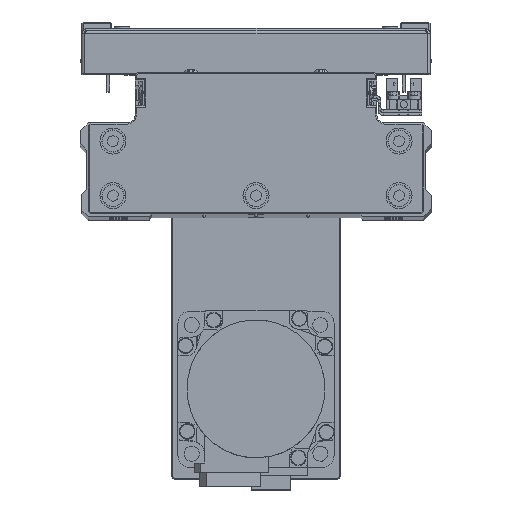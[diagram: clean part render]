
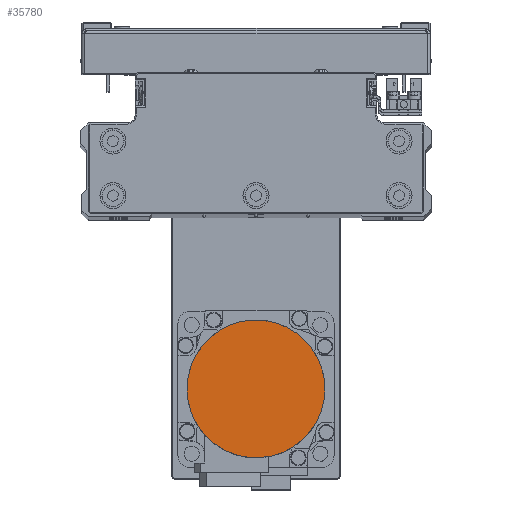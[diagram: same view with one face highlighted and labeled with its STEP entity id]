
A CAD part, top view. The second image highlights one B-rep face of the part: STEP entity #35780.
In plain terms, the highlighted planar face has unit normal (0, 0, 1) as drawn and (0, 0, -1) by its records, which use the part's own axes.
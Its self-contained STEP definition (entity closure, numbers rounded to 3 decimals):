
#2014 = CARTESIAN_POINT ( 'NONE',  ( -16.165, -21.07, -109.7 ) ) ;
#2220 = CARTESIAN_POINT ( 'NONE',  ( 11.744, 23.819, -109.7 ) ) ;
#2243 = CARTESIAN_POINT ( 'NONE',  ( 16.165, -21.07, -109.7 ) ) ;
#2432 = CARTESIAN_POINT ( 'NONE',  ( -19.965, 17.512, -109.7 ) ) ;
#2596 = FACE_OUTER_BOUND ( 'NONE', #3212, .T. ) ;
#3212 = EDGE_LOOP ( 'NONE', ( #40001, #31798 ) ) ;
#5336 = CARTESIAN_POINT ( 'NONE',  ( -21.07, -16.165, -109.7 ) ) ;
#5534 = CARTESIAN_POINT ( 'NONE',  ( 17.512, 19.965, -109.7 ) ) ;
#5562 = CARTESIAN_POINT ( 'NONE',  ( 8.539, -25.147, -109.7 ) ) ;
#5764 = CARTESIAN_POINT ( 'NONE',  ( -13.28, 22.998, -109.7 ) ) ;
#5787 = CARTESIAN_POINT ( 'NONE',  ( 26.5, 0., -109.7 ) ) ;
#8660 = EDGE_CURVE ( 'NONE', #22378, #13262, #17434, .T. ) ;
#8697 = CARTESIAN_POINT ( 'NONE',  ( -25.147, -8.539, -109.7 ) ) ;
#8881 = CARTESIAN_POINT ( 'NONE',  ( 22.998, 13.28, -109.7 ) ) ;
#8904 = CARTESIAN_POINT ( 'NONE',  ( 1.734, -26.5, -109.7 ) ) ;
#9105 = CARTESIAN_POINT ( 'NONE',  ( -6.871, 25.652, -109.7 ) ) ;
#9131 = CARTESIAN_POINT ( 'NONE',  ( 25.652, -6.871, -109.7 ) ) ;
#9341 = CARTESIAN_POINT ( 'NONE',  ( -26.5, 1.734, -109.7 ) ) ;
#12036 = CARTESIAN_POINT ( 'NONE',  ( -26.5, -1.734, -109.7 ) ) ;
#12242 = CARTESIAN_POINT ( 'NONE',  ( 25.652, 6.871, -109.7 ) ) ;
#12265 = CARTESIAN_POINT ( 'NONE',  ( -6.871, -25.652, -109.7 ) ) ;
#12448 = CARTESIAN_POINT ( 'NONE',  ( 1.734, 26.5, -109.7 ) ) ;
#12469 = CARTESIAN_POINT ( 'NONE',  ( 22.998, -13.28, -109.7 ) ) ;
#12677 = CARTESIAN_POINT ( 'NONE',  ( -25.147, 8.539, -109.7 ) ) ;
#12868 = DIRECTION ( 'NONE',  ( 1., 0., 0. ) ) ;
#13262 = VERTEX_POINT ( 'NONE', #14597 ) ;
#14597 = CARTESIAN_POINT ( 'NONE',  ( -26.5, 0., -109.7 ) ) ;
#14746 = B_SPLINE_CURVE_WITH_KNOTS ( 'NONE', 3,
 ( #42526, #12036, #25659, #39213, #8697, #22318, #35856, #5336, #18961, #32496, #2014, #15621, #29192, #42759, #12265, #25874, #39422, #8904, #22525, #36062, #5562, #19202, #32734, #2243, #15845, #29400, #42962, #12469, #26077, #39626, #9131, #22763, #36306, #5787 ),
 .UNSPECIFIED., .F., .F.,
 ( 4, 2, 2, 2, 2, 2, 2, 2, 2, 2, 2, 2, 2, 2, 2, 2, 4 ),
 ( 0., 0.063, 0.125, 0.188, 0.25, 0.312, 0.375, 0.437, 0.5, 0.562, 0.625, 0.687, 0.75, 0.813, 0.875, 0.938, 1. ),
 .UNSPECIFIED. ) ;
#15592 = CARTESIAN_POINT ( 'NONE',  ( 26.5, 0., -109.7 ) ) ;
#15621 = CARTESIAN_POINT ( 'NONE',  ( -13.28, -22.998, -109.7 ) ) ;
#15822 = CARTESIAN_POINT ( 'NONE',  ( 8.539, 25.147, -109.7 ) ) ;
#15845 = CARTESIAN_POINT ( 'NONE',  ( 17.512, -19.965, -109.7 ) ) ;
#16028 = CARTESIAN_POINT ( 'NONE',  ( -21.07, 16.165, -109.7 ) ) ;
#16205 = PLANE ( 'NONE',  #33123 ) ;
#17434 = B_SPLINE_CURVE_WITH_KNOTS ( 'NONE', 3,
 ( #15592, #29166, #42736, #12242, #25853, #39399, #8881, #22501, #36038, #5534, #19177, #32710, #2220, #15822, #29381, #42940, #12448, #26053, #39606, #9105, #22737, #36287, #5764, #19398, #32926, #2432, #16028, #29581, #43152, #12677, #26290, #39842, #9341, #22953 ),
 .UNSPECIFIED., .F., .F.,
 ( 4, 2, 2, 2, 2, 2, 2, 2, 2, 2, 2, 2, 2, 2, 2, 2, 4 ),
 ( 0., 0.062, 0.125, 0.187, 0.25, 0.312, 0.375, 0.437, 0.5, 0.562, 0.625, 0.687, 0.75, 0.813, 0.875, 0.938, 1. ),
 .UNSPECIFIED. ) ;
#18961 = CARTESIAN_POINT ( 'NONE',  ( -19.965, -17.512, -109.7 ) ) ;
#19177 = CARTESIAN_POINT ( 'NONE',  ( 16.165, 21.07, -109.7 ) ) ;
#19202 = CARTESIAN_POINT ( 'NONE',  ( 11.744, -23.819, -109.7 ) ) ;
#19398 = CARTESIAN_POINT ( 'NONE',  ( -16.165, 21.07, -109.7 ) ) ;
#22318 = CARTESIAN_POINT ( 'NONE',  ( -23.819, -11.744, -109.7 ) ) ;
#22378 = VERTEX_POINT ( 'NONE', #42030 ) ;
#22501 = CARTESIAN_POINT ( 'NONE',  ( 21.07, 16.165, -109.7 ) ) ;
#22525 = CARTESIAN_POINT ( 'NONE',  ( 3.469, -26.329, -109.7 ) ) ;
#22737 = CARTESIAN_POINT ( 'NONE',  ( -8.539, 25.147, -109.7 ) ) ;
#22763 = CARTESIAN_POINT ( 'NONE',  ( 26.329, -3.469, -109.7 ) ) ;
#22953 = CARTESIAN_POINT ( 'NONE',  ( -26.5, 0., -109.7 ) ) ;
#25659 = CARTESIAN_POINT ( 'NONE',  ( -26.329, -3.469, -109.7 ) ) ;
#25853 = CARTESIAN_POINT ( 'NONE',  ( 25.147, 8.539, -109.7 ) ) ;
#25874 = CARTESIAN_POINT ( 'NONE',  ( -3.469, -26.329, -109.7 ) ) ;
#26053 = CARTESIAN_POINT ( 'NONE',  ( -1.734, 26.5, -109.7 ) ) ;
#26077 = CARTESIAN_POINT ( 'NONE',  ( 23.819, -11.744, -109.7 ) ) ;
#26290 = CARTESIAN_POINT ( 'NONE',  ( -25.652, 6.871, -109.7 ) ) ;
#28817 = EDGE_CURVE ( 'NONE', #13262, #22378, #14746, .T. ) ;
#29166 = CARTESIAN_POINT ( 'NONE',  ( 26.5, 1.734, -109.7 ) ) ;
#29192 = CARTESIAN_POINT ( 'NONE',  ( -11.744, -23.819, -109.7 ) ) ;
#29381 = CARTESIAN_POINT ( 'NONE',  ( 6.871, 25.652, -109.7 ) ) ;
#29400 = CARTESIAN_POINT ( 'NONE',  ( 19.965, -17.512, -109.7 ) ) ;
#29581 = CARTESIAN_POINT ( 'NONE',  ( -22.998, 13.28, -109.7 ) ) ;
#29773 = CARTESIAN_POINT ( 'NONE',  ( 0., 0., -109.7 ) ) ;
#31798 = ORIENTED_EDGE ( 'NONE', *, *, #28817, .F. ) ;
#32496 = CARTESIAN_POINT ( 'NONE',  ( -17.512, -19.965, -109.7 ) ) ;
#32710 = CARTESIAN_POINT ( 'NONE',  ( 13.28, 22.998, -109.7 ) ) ;
#32734 = CARTESIAN_POINT ( 'NONE',  ( 13.28, -22.998, -109.7 ) ) ;
#32926 = CARTESIAN_POINT ( 'NONE',  ( -17.512, 19.965, -109.7 ) ) ;
#33123 = AXIS2_PLACEMENT_3D ( 'NONE', #29773, #43346, #12868 ) ;
#35780 = ADVANCED_FACE ( 'NONE', ( #2596 ), #16205, .F. ) ;
#35856 = CARTESIAN_POINT ( 'NONE',  ( -22.998, -13.28, -109.7 ) ) ;
#36038 = CARTESIAN_POINT ( 'NONE',  ( 19.965, 17.512, -109.7 ) ) ;
#36062 = CARTESIAN_POINT ( 'NONE',  ( 6.871, -25.652, -109.7 ) ) ;
#36287 = CARTESIAN_POINT ( 'NONE',  ( -11.744, 23.819, -109.7 ) ) ;
#36306 = CARTESIAN_POINT ( 'NONE',  ( 26.5, -1.734, -109.7 ) ) ;
#39213 = CARTESIAN_POINT ( 'NONE',  ( -25.652, -6.871, -109.7 ) ) ;
#39399 = CARTESIAN_POINT ( 'NONE',  ( 23.819, 11.744, -109.7 ) ) ;
#39422 = CARTESIAN_POINT ( 'NONE',  ( -1.734, -26.5, -109.7 ) ) ;
#39606 = CARTESIAN_POINT ( 'NONE',  ( -3.469, 26.329, -109.7 ) ) ;
#39626 = CARTESIAN_POINT ( 'NONE',  ( 25.147, -8.539, -109.7 ) ) ;
#39842 = CARTESIAN_POINT ( 'NONE',  ( -26.329, 3.469, -109.7 ) ) ;
#40001 = ORIENTED_EDGE ( 'NONE', *, *, #8660, .F. ) ;
#42030 = CARTESIAN_POINT ( 'NONE',  ( 26.5, 0., -109.7 ) ) ;
#42526 = CARTESIAN_POINT ( 'NONE',  ( -26.5, 0., -109.7 ) ) ;
#42736 = CARTESIAN_POINT ( 'NONE',  ( 26.329, 3.469, -109.7 ) ) ;
#42759 = CARTESIAN_POINT ( 'NONE',  ( -8.539, -25.147, -109.7 ) ) ;
#42940 = CARTESIAN_POINT ( 'NONE',  ( 3.469, 26.329, -109.7 ) ) ;
#42962 = CARTESIAN_POINT ( 'NONE',  ( 21.07, -16.165, -109.7 ) ) ;
#43152 = CARTESIAN_POINT ( 'NONE',  ( -23.819, 11.744, -109.7 ) ) ;
#43346 = DIRECTION ( 'NONE',  ( 0., 0., 1. ) ) ;
